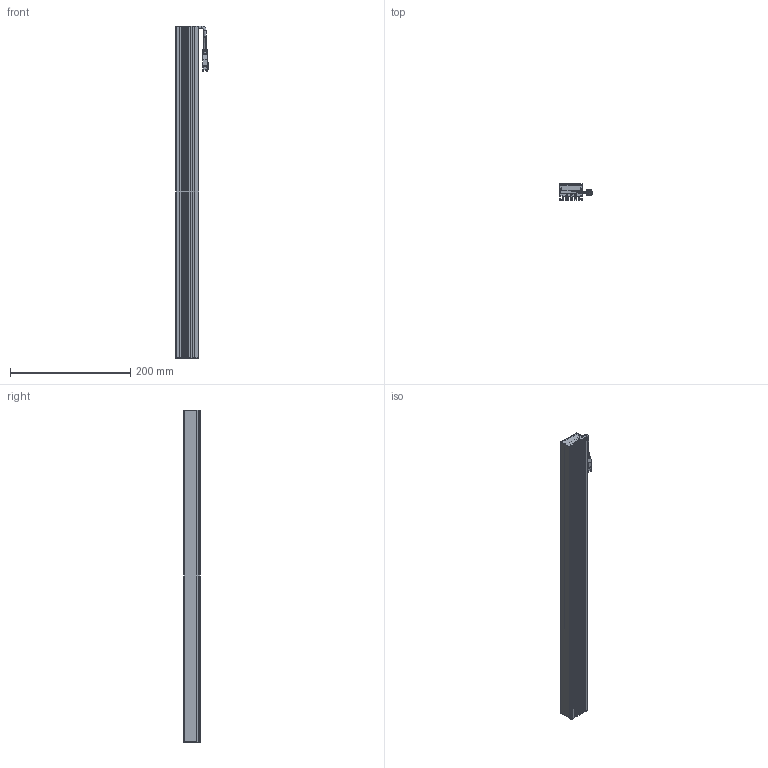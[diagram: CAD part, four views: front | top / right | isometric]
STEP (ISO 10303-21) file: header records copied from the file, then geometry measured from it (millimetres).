
FILE_DESCRIPTION (( 'STEP AP203' ), '1' );
FILE_NAME ('LBD-552L-潠眢3D芞.STEP', '2021-06-16T08:14:42', ( 'Windows 蚚誧' ), ( 'Organization' ), 'SwSTEP 2.0', 'SolidWorks 2018', '' );
FILE_SCHEMA (( 'CONFIG_CONTROL_DESIGN' ));
Length unit declared in the file: millimetre
Products named in the file (1): LBD-552L-潠眢3D芞
Bounding box: 54.16 x 27 x 552 mm (x, y, z)
Surface area: 205746.3 mm2 (no closed solid volume)
Topology: 0 solids, 8 shells, 889 faces, 2541 edges, 1653 vertices
Faces by surface type: plane 458, cylinder 369, cone 28, bspline 28, torus 6
Entity records: 29635 total; most frequent: CARTESIAN_POINT 5977, ORIENTED_EDGE 5003, DIRECTION 4968, EDGE_CURVE 2525, LINE 1676, VECTOR 1676, VERTEX_POINT 1653, AXIS2_PLACEMENT_3D 1646
